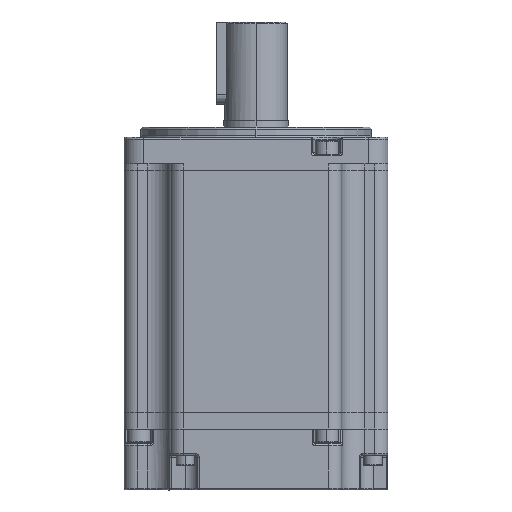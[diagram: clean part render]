
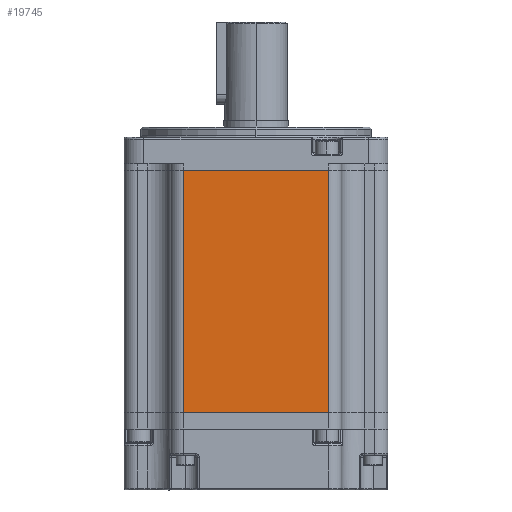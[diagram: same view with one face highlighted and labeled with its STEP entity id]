
A CAD part, front view. The second image highlights one B-rep face of the part: STEP entity #19745.
In plain terms, the highlighted planar face has unit normal (0, -1, 0) as drawn and (-1, 0, 0) by its records, which use the part's own axes.
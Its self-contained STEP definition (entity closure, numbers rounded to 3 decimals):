
#6747 = LINE ( 'NONE', #126878, #66176 ) ;
#8585 = VECTOR ( 'NONE', #27500, 1000. ) ;
#11953 = LINE ( 'NONE', #113691, #8585 ) ;
#12015 = AXIS2_PLACEMENT_3D ( 'NONE', #105933, #19237, #84177 ) ;
#13904 = CARTESIAN_POINT ( 'NONE',  ( -40., -22., 73.5 ) ) ;
#14495 = CARTESIAN_POINT ( 'NONE',  ( -40., -22., 0. ) ) ;
#15507 = EDGE_CURVE ( 'NONE', #60339, #138089, #6747, .T. ) ;
#19237 = DIRECTION ( 'NONE',  ( 1., 0., 0. ) ) ;
#19745 = ADVANCED_FACE ( 'NONE', ( #27708 ), #50558, .F. ) ;
#25094 = EDGE_LOOP ( 'NONE', ( #44014, #61293, #48768, #32641 ) ) ;
#27500 = DIRECTION ( 'NONE',  ( 0., 0., -1. ) ) ;
#27708 = FACE_OUTER_BOUND ( 'NONE', #25094, .T. ) ;
#32641 = ORIENTED_EDGE ( 'NONE', *, *, #110041, .T. ) ;
#35710 = DIRECTION ( 'NONE',  ( 0., -1., 0. ) ) ;
#37929 = CARTESIAN_POINT ( 'NONE',  ( -40., 22., 73.5 ) ) ;
#39620 = CARTESIAN_POINT ( 'NONE',  ( -40., 22., 0. ) ) ;
#42741 = VECTOR ( 'NONE', #46290, 1000. ) ;
#44014 = ORIENTED_EDGE ( 'NONE', *, *, #57994, .T. ) ;
#46290 = DIRECTION ( 'NONE',  ( 0., -1., 0. ) ) ;
#48768 = ORIENTED_EDGE ( 'NONE', *, *, #130117, .F. ) ;
#50558 = PLANE ( 'NONE',  #12015 ) ;
#52350 = LINE ( 'NONE', #13904, #67609 ) ;
#57994 = EDGE_CURVE ( 'NONE', #60190, #138089, #68183, .T. ) ;
#60190 = VERTEX_POINT ( 'NONE', #39620 ) ;
#60339 = VERTEX_POINT ( 'NONE', #96384 ) ;
#61293 = ORIENTED_EDGE ( 'NONE', *, *, #15507, .F. ) ;
#66176 = VECTOR ( 'NONE', #72914, 1000. ) ;
#67609 = VECTOR ( 'NONE', #35710, 1000. ) ;
#68183 = LINE ( 'NONE', #14495, #42741 ) ;
#71469 = CARTESIAN_POINT ( 'NONE',  ( -40., -22., 0. ) ) ;
#72914 = DIRECTION ( 'NONE',  ( 0., 0., -1. ) ) ;
#84177 = DIRECTION ( 'NONE',  ( 0., 0., -1. ) ) ;
#96384 = CARTESIAN_POINT ( 'NONE',  ( -40., -22., 73.5 ) ) ;
#105933 = CARTESIAN_POINT ( 'NONE',  ( -40., -22., 73.5 ) ) ;
#106605 = VERTEX_POINT ( 'NONE', #37929 ) ;
#110041 = EDGE_CURVE ( 'NONE', #106605, #60190, #11953, .T. ) ;
#113691 = CARTESIAN_POINT ( 'NONE',  ( -40., 22., 73.5 ) ) ;
#126878 = CARTESIAN_POINT ( 'NONE',  ( -40., -22., 73.5 ) ) ;
#130117 = EDGE_CURVE ( 'NONE', #106605, #60339, #52350, .T. ) ;
#138089 = VERTEX_POINT ( 'NONE', #71469 ) ;
